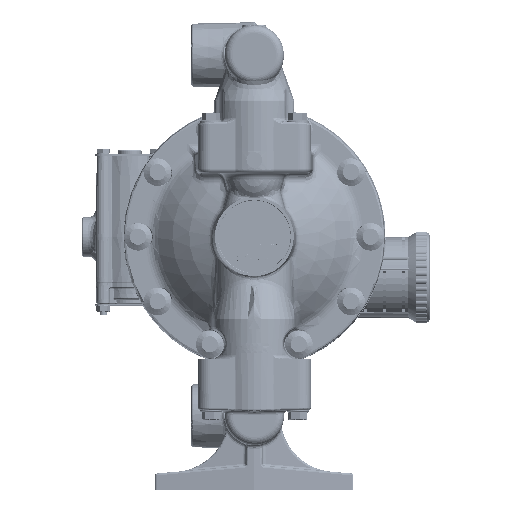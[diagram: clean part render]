
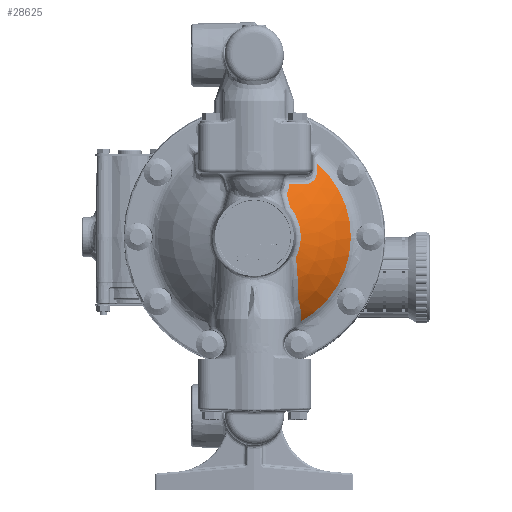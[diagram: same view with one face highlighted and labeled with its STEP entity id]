
A CAD part, top view. The second image highlights one B-rep face of the part: STEP entity #28625.
In plain terms, the highlighted spherical face has radius 100.203 mm.
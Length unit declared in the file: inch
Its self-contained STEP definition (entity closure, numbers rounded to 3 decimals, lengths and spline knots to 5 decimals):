
#1041=SPHERICAL_SURFACE('',#227653,3.945);
#8151=CIRCLE('',#227530,3.64798);
#8153=CIRCLE('',#227533,1.47329);
#8154=CIRCLE('',#227535,3.66545);
#8155=CIRCLE('',#227537,3.61722);
#8159=CIRCLE('',#227545,3.57446);
#8231=CIRCLE('',#227651,3.05929);
#8232=CIRCLE('',#227652,3.35405);
#16770=B_SPLINE_CURVE_WITH_KNOTS('',3,(#412557,#412558,#412559,#412560),
.UNSPECIFIED.,.F.,.F.,(4,4),(0.,1.),.UNSPECIFIED.);
#16771=B_SPLINE_CURVE_WITH_KNOTS('',3,(#412579,#412580,#412581,#412582),
.UNSPECIFIED.,.F.,.F.,(4,4),(0.,1.),.UNSPECIFIED.);
#16773=B_SPLINE_CURVE_WITH_KNOTS('',3,(#412604,#412605,#412606,#412607),
.UNSPECIFIED.,.F.,.F.,(4,4),(0.,1.),.UNSPECIFIED.);
#16829=B_SPLINE_CURVE_WITH_KNOTS('',3,(#413503,#413504,#413505,#413506,#413507,
#413508,#413509,#413510),.UNSPECIFIED.,.F.,.F.,(4,2,2,4),(0.,0.5,0.75,1.),
.UNSPECIFIED.);
#28625=ADVANCED_FACE('',(#48023),#1041,.T.);
#48023=FACE_OUTER_BOUND('',#60988,.T.);
#60988=EDGE_LOOP('',(#161192,#161193,#161194,#161195,#161196,#161197,#161198,
#161199,#161200,#161201,#161202));
#161192=ORIENTED_EDGE('',*,*,#211811,.T.);
#161193=ORIENTED_EDGE('',*,*,#211943,.T.);
#161194=ORIENTED_EDGE('',*,*,#211944,.T.);
#161195=ORIENTED_EDGE('',*,*,#211945,.T.);
#161196=ORIENTED_EDGE('',*,*,#211817,.T.);
#161197=ORIENTED_EDGE('',*,*,#211809,.T.);
#161198=ORIENTED_EDGE('',*,*,#211808,.T.);
#161199=ORIENTED_EDGE('',*,*,#211806,.T.);
#161200=ORIENTED_EDGE('',*,*,#211805,.T.);
#161201=ORIENTED_EDGE('',*,*,#211803,.T.);
#161202=ORIENTED_EDGE('',*,*,#211801,.T.);
#181233=VERTEX_POINT('',#411471);
#181237=VERTEX_POINT('',#411502);
#181241=VERTEX_POINT('',#411572);
#181245=VERTEX_POINT('',#411591);
#181351=VERTEX_POINT('',#412561);
#181352=VERTEX_POINT('',#412576);
#181353=VERTEX_POINT('',#412596);
#181354=VERTEX_POINT('',#412624);
#181357=VERTEX_POINT('',#412638);
#181425=VERTEX_POINT('',#413500);
#181426=VERTEX_POINT('',#413502);
#211801=EDGE_CURVE('',#181233,#181351,#16770,.T.);
#211803=EDGE_CURVE('',#181352,#181233,#8151,.T.);
#211805=EDGE_CURVE('',#181237,#181352,#16771,.T.);
#211806=EDGE_CURVE('',#181353,#181237,#8153,.T.);
#211808=EDGE_CURVE('',#181241,#181353,#8154,.T.);
#211809=EDGE_CURVE('',#181245,#181241,#16773,.T.);
#211811=EDGE_CURVE('',#181351,#181354,#8155,.T.);
#211817=EDGE_CURVE('',#181357,#181245,#8159,.T.);
#211943=EDGE_CURVE('',#181354,#181425,#8231,.T.);
#211944=EDGE_CURVE('',#181425,#181426,#8232,.T.);
#211945=EDGE_CURVE('',#181426,#181357,#16829,.T.);
#227530=AXIS2_PLACEMENT_3D('',#412575,#276979,#276980);
#227533=AXIS2_PLACEMENT_3D('',#412595,#276985,#276986);
#227535=AXIS2_PLACEMENT_3D('',#412602,#276989,#276990);
#227537=AXIS2_PLACEMENT_3D('',#412625,#276993,#276994);
#227545=AXIS2_PLACEMENT_3D('',#412637,#277011,#277012);
#227651=AXIS2_PLACEMENT_3D('',#413499,#277223,#277224);
#227652=AXIS2_PLACEMENT_3D('',#413501,#277225,#277226);
#227653=AXIS2_PLACEMENT_3D('',#413511,#277227,#277228);
#276979=DIRECTION('',(0.999,0.,0.035));
#276980=DIRECTION('',(-0.035,0.,0.999));
#276985=DIRECTION('',(0.,0.,-1.));
#276986=DIRECTION('',(0.,-1.,0.));
#276989=DIRECTION('',(0.965,0.259,0.034));
#276990=DIRECTION('',(0.259,-0.966,0.));
#276993=DIRECTION('',(0.999,0.,0.035));
#276994=DIRECTION('',(-0.035,0.,0.999));
#277011=DIRECTION('',(0.,-1.,0.));
#277012=DIRECTION('',(0.,0.,1.));
#277223=DIRECTION('',(0.,0.,1.));
#277224=DIRECTION('',(0.,-1.,0.));
#277225=DIRECTION('',(0.999,0.,0.035));
#277226=DIRECTION('',(-0.035,0.,0.999));
#277227=DIRECTION('',(0.,0.,1.));
#277228=DIRECTION('',(-1.,0.,0.));
#411471=CARTESIAN_POINT('',(1.39422,-2.00004,1.06496));
#411502=CARTESIAN_POINT('',(1.32362,-0.64646,1.62314));
#411572=CARTESIAN_POINT('',(1.02253,1.35636,1.52403));
#411591=CARTESIAN_POINT('',(1.11022,1.66922,1.36109));
#412557=CARTESIAN_POINT('',(1.39422,-2.00004,1.06496));
#412558=CARTESIAN_POINT('',(1.44868,-2.15215,0.94238));
#412559=CARTESIAN_POINT('',(1.47575,-2.30362,0.81298));
#412560=CARTESIAN_POINT('',(1.48056,-2.45255,0.67569));
#412561=CARTESIAN_POINT('',(1.48056,-2.45255,0.67569));
#412575=CARTESIAN_POINT('',(1.50051,0.00003,-1.98402));
#412576=CARTESIAN_POINT('',(1.38717,-1.65349,1.26573));
#412579=CARTESIAN_POINT('',(1.32362,-0.64646,1.62314));
#412580=CARTESIAN_POINT('',(1.34681,-0.99921,1.55245));
#412581=CARTESIAN_POINT('',(1.38145,-1.33246,1.42887));
#412582=CARTESIAN_POINT('',(1.38717,-1.65349,1.26573));
#412595=CARTESIAN_POINT('',(-0.00031,-0.0001,
1.62314));
#412596=CARTESIAN_POINT('',(1.12916,0.94587,1.62314));
#412602=CARTESIAN_POINT('',(1.40768,0.37753,-1.98726));
#412604=CARTESIAN_POINT('',(1.11022,1.66922,1.36109));
#412605=CARTESIAN_POINT('',(1.09656,1.56258,1.41795));
#412606=CARTESIAN_POINT('',(1.06778,1.45818,1.47224));
#412607=CARTESIAN_POINT('',(1.02253,1.35636,1.52403));
#412624=CARTESIAN_POINT('',(1.48831,-2.67278,0.45432));
#412625=CARTESIAN_POINT('',(1.57313,0.00004,-1.98148));
#412637=CARTESIAN_POINT('',(-0.00046,1.66912,-2.03643));
#412638=CARTESIAN_POINT('',(1.61343,1.66926,1.15295));
#413499=CARTESIAN_POINT('',(-0.00031,-0.0001,
0.45432));
#413500=CARTESIAN_POINT('',(1.99063,2.32269,0.45432));
#413501=CARTESIAN_POINT('',(2.07528,0.00008,-1.96394));
#413502=CARTESIAN_POINT('',(1.98171,2.02194,0.71056));
#413503=CARTESIAN_POINT('',(1.98171,2.02194,0.71056));
#413504=CARTESIAN_POINT('',(1.97918,1.92552,0.78337));
#413505=CARTESIAN_POINT('',(1.93974,1.84206,0.86531));
#413506=CARTESIAN_POINT('',(1.84326,1.74578,0.98347));
#413507=CARTESIAN_POINT('',(1.80523,1.71938,1.02134));
#413508=CARTESIAN_POINT('',(1.71754,1.68111,1.09233));
#413509=CARTESIAN_POINT('',(1.66749,1.66926,1.12559));
#413510=CARTESIAN_POINT('',(1.61343,1.66926,1.15295));
#413511=CARTESIAN_POINT('',(-0.00031,-0.0001,
-2.03643));
